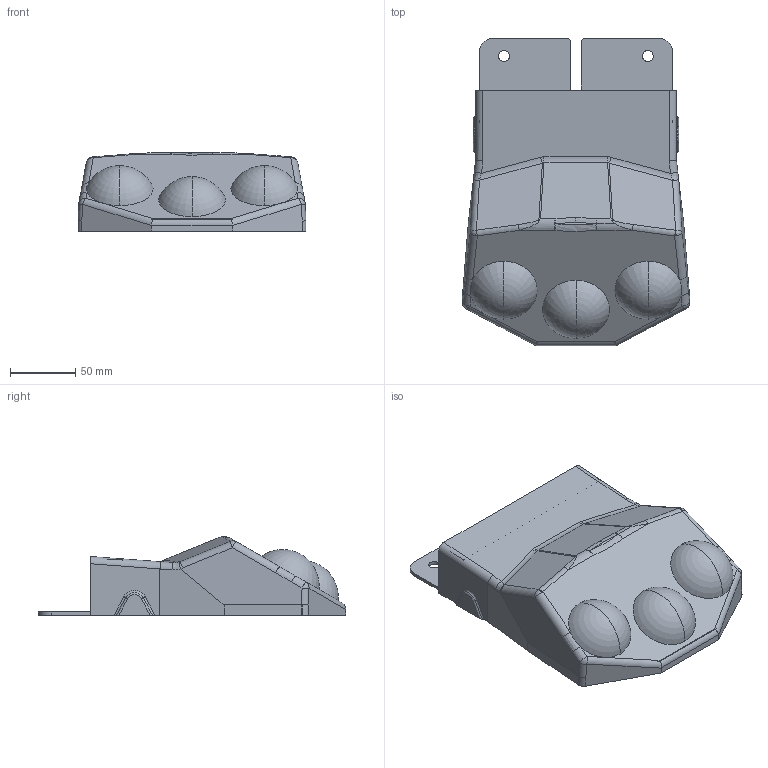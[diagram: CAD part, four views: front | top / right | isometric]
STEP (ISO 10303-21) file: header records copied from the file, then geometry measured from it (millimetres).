
FILE_DESCRIPTION (( 'STEP AP203' ), '1' );
FILE_NAME ('ayak kumandasý DOLU.STEP', '2023-07-31T06:04:47', ( '' ), ( '' ), 'SwSTEP 2.0', 'SolidWorks 2023', '' );
FILE_SCHEMA (( 'CONFIG_CONTROL_DESIGN' ));
Length unit declared in the file: millimetre
Products named in the file (1): ayak kumandası DOLU
Bounding box: 174.46 x 235 x 60.18 mm (x, y, z)
Volume: 1171320.2 mm3; surface area: 122582.6 mm2
Topology: 1 solids, 1 shells, 179 faces, 476 edges, 295 vertices
Faces by surface type: plane 78, cylinder 65, bspline 19, torus 12, sphere 5
Entity records: 5810 total; most frequent: CARTESIAN_POINT 1494, ORIENTED_EDGE 932, DIRECTION 854, EDGE_CURVE 466, VERTEX_POINT 295, AXIS2_PLACEMENT_3D 291, LINE 272, VECTOR 272
